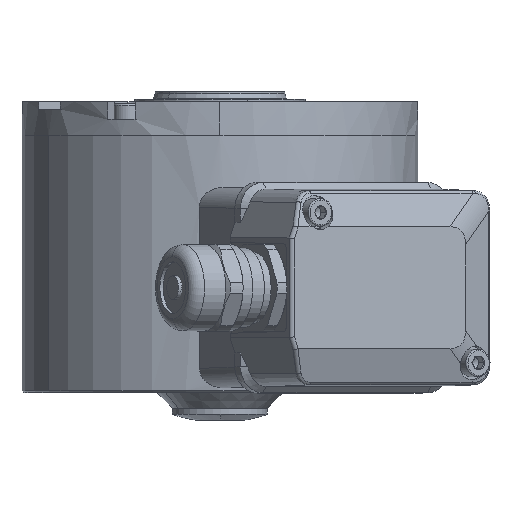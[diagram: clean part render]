
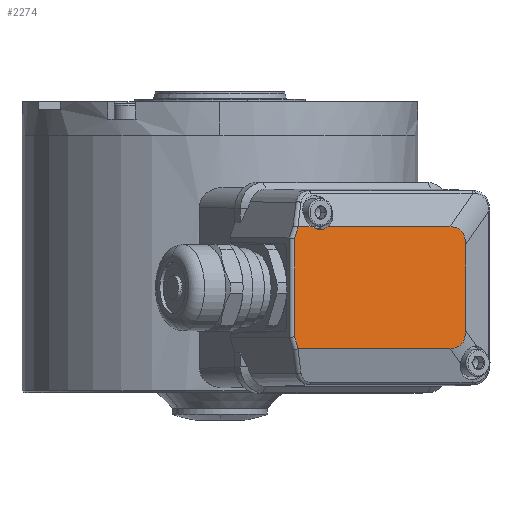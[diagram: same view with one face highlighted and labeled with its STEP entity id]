
A CAD part, front view. The second image highlights one B-rep face of the part: STEP entity #2274.
In plain terms, the highlighted planar face has unit normal (0.5, -0.866, 0).
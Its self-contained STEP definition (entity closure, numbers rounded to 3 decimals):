
#995 = VECTOR ( 'NONE', #12400, 1000. ) ;
#2274 = ADVANCED_FACE ( 'NONE', ( #6082 ), #23896, .F. ) ;
#2774 = VECTOR ( 'NONE', #15873, 1000. ) ;
#2823 = EDGE_CURVE ( 'NONE', #10047, #11277, #20193, .T. ) ;
#3047 = ORIENTED_EDGE ( 'NONE', *, *, #41007, .T. ) ;
#4107 = ORIENTED_EDGE ( 'NONE', *, *, #11134, .T. ) ;
#5210 = CARTESIAN_POINT ( 'NONE',  ( 62.037, -68.683, -36.173 ) ) ;
#5913 = CARTESIAN_POINT ( 'NONE',  ( 62.037, -68.683, -36.173 ) ) ;
#6082 = FACE_OUTER_BOUND ( 'NONE', #10678, .T. ) ;
#6263 = CARTESIAN_POINT ( 'NONE',  ( 58.097, -70.958, -31.624 ) ) ;
#6413 = CARTESIAN_POINT ( 'NONE',  ( 58.097, -70.958, -62.392 ) ) ;
#6820 = ORIENTED_EDGE ( 'NONE', *, *, #40400, .T. ) ;
#6952 = CARTESIAN_POINT ( 'NONE',  ( 25.331, -89.875, -28.008 ) ) ;
#7018 = AXIS2_PLACEMENT_3D ( 'NONE', #6952, #30552, #10380 ) ;
#8376 = CARTESIAN_POINT ( 'NONE',  ( 62.037, -68.683, -57.843 ) ) ;
#8405 = ORIENTED_EDGE ( 'NONE', *, *, #41038, .T. ) ;
#8861 = VERTEX_POINT ( 'NONE', #5210 ) ;
#10047 = VERTEX_POINT ( 'NONE', #17717 ) ;
#10092 = LINE ( 'NONE', #35962, #995 ) ;
#10380 = DIRECTION ( 'NONE',  ( 0., 0., 1. ) ) ;
#10524 = ORIENTED_EDGE ( 'NONE', *, *, #25307, .T. ) ;
#10678 = EDGE_LOOP ( 'NONE', ( #6820, #23698, #12632, #37329, #10524, #17335, #8405, #15254, #14183, #4107, #3047 ) ) ;
#10726 = CARTESIAN_POINT ( 'NONE',  ( 18.842, -93.622, -59.382 ) ) ;
#10843 = DIRECTION ( 'NONE',  ( 0., 0., -1. ) ) ;
#11134 = EDGE_CURVE ( 'NONE', #41875, #41244, #20716, .T. ) ;
#11277 = VERTEX_POINT ( 'NONE', #26790 ) ;
#11584 = CARTESIAN_POINT ( 'NONE',  ( 62.037, -68.683, -60.845 ) ) ;
#11628 = DIRECTION ( 'NONE',  ( -0.296, -0.171, -0.94 ) ) ;
#12400 = DIRECTION ( 'NONE',  ( 0., 0., 1. ) ) ;
#12632 = ORIENTED_EDGE ( 'NONE', *, *, #34830, .F. ) ;
#12733 = CARTESIAN_POINT ( 'NONE',  ( 58.097, -70.958, -31.624 ) ) ;
#13917 = VECTOR ( 'NONE', #35200, 1000. ) ;
#14183 = ORIENTED_EDGE ( 'NONE', *, *, #29610, .F. ) ;
#14300 = EDGE_CURVE ( 'NONE', #41625, #32691, #17169, .T. ) ;
#14691 = CARTESIAN_POINT ( 'NONE',  ( 19.791, -93.074, -62.392 ) ) ;
#14857 = EDGE_CURVE ( 'NONE', #31843, #15831, #22505, .T. ) ;
#15039 = CARTESIAN_POINT ( 'NONE',  ( 79.891, -58.375, -31.624 ) ) ;
#15052 = AXIS2_PLACEMENT_3D ( 'NONE', #20365, #15718, #30267 ) ;
#15254 = ORIENTED_EDGE ( 'NONE', *, *, #2823, .F. ) ;
#15718 = DIRECTION ( 'NONE',  ( -0.5, 0.866, 0. ) ) ;
#15831 = VERTEX_POINT ( 'NONE', #14691 ) ;
#15873 = DIRECTION ( 'NONE',  ( -0.866, -0.5, 0. ) ) ;
#16189 = LINE ( 'NONE', #34382, #33086 ) ;
#17169 =( BOUNDED_CURVE ( )  B_SPLINE_CURVE ( 3, ( #28553, #28413, #11584, #8376 ),
 .UNSPECIFIED., .F., .F. ) 
 B_SPLINE_CURVE_WITH_KNOTS ( ( 4, 4 ),
 ( 2.897, 3.386 ),
 .UNSPECIFIED. ) 
 CURVE ( )  GEOMETRIC_REPRESENTATION_ITEM ( )  RATIONAL_B_SPLINE_CURVE ( ( 1., 0.98, 0.98, 1. ) ) 
 REPRESENTATION_ITEM ( '' )  );
#17335 = ORIENTED_EDGE ( 'NONE', *, *, #38923, .T. ) ;
#17717 = CARTESIAN_POINT ( 'NONE',  ( 25.331, -89.875, -32.323 ) ) ;
#18268 = CARTESIAN_POINT ( 'NONE',  ( 18.79, -93.652, -34.797 ) ) ;
#19226 = DIRECTION ( 'NONE',  ( 0., 0., 1. ) ) ;
#19267 = DIRECTION ( 'NONE',  ( 0.5, -0.866, 0. ) ) ;
#19321 = CARTESIAN_POINT ( 'NONE',  ( 25.331, -89.875, -28.008 ) ) ;
#20174 = CARTESIAN_POINT ( 'NONE',  ( 18.842, -93.622, -34.634 ) ) ;
#20193 = CIRCLE ( 'NONE', #41738, 4.315 ) ;
#20365 = CARTESIAN_POINT ( 'NONE',  ( 70.365, -63.875, -72.008 ) ) ;
#20524 = VERTEX_POINT ( 'NONE', #20174 ) ;
#20716 = LINE ( 'NONE', #32549, #2774 ) ;
#22505 = LINE ( 'NONE', #39175, #39331 ) ;
#22868 = LINE ( 'NONE', #15039, #13917 ) ;
#23698 = ORIENTED_EDGE ( 'NONE', *, *, #14857, .T. ) ;
#23781 = LINE ( 'NONE', #34276, #41579 ) ;
#23896 = PLANE ( 'NONE',  #15052 ) ;
#24011 = CARTESIAN_POINT ( 'NONE',  ( 19.791, -93.074, -31.624 ) ) ;
#25307 = EDGE_CURVE ( 'NONE', #32691, #8861, #10092, .T. ) ;
#26790 = CARTESIAN_POINT ( 'NONE',  ( 27.37, -88.699, -31.624 ) ) ;
#28413 = CARTESIAN_POINT ( 'NONE',  ( 60.697, -69.457, -62.392 ) ) ;
#28421 = CIRCLE ( 'NONE', #7018, 4.315 ) ;
#28553 = CARTESIAN_POINT ( 'NONE',  ( 58.097, -70.958, -62.392 ) ) ;
#29544 = CARTESIAN_POINT ( 'NONE',  ( 62.037, -68.683, -33.171 ) ) ;
#29610 = EDGE_CURVE ( 'NONE', #41875, #10047, #28421, .T. ) ;
#30267 = DIRECTION ( 'NONE',  ( 0., 0., 1. ) ) ;
#30552 = DIRECTION ( 'NONE',  ( 0.5, -0.866, 0. ) ) ;
#30926 = DIRECTION ( 'NONE',  ( -0.866, -0.5, 0. ) ) ;
#31843 = VERTEX_POINT ( 'NONE', #10726 ) ;
#31856 = VECTOR ( 'NONE', #11628, 1000. ) ;
#31857 = CARTESIAN_POINT ( 'NONE',  ( 62.037, -68.683, -57.843 ) ) ;
#32549 = CARTESIAN_POINT ( 'NONE',  ( 79.891, -58.375, -31.624 ) ) ;
#32691 = VERTEX_POINT ( 'NONE', #31857 ) ;
#32914 = CARTESIAN_POINT ( 'NONE',  ( 60.697, -69.457, -31.624 ) ) ;
#33086 = VECTOR ( 'NONE', #10843, 1000. ) ;
#34276 = CARTESIAN_POINT ( 'NONE',  ( 79.891, -58.375, -62.392 ) ) ;
#34382 = CARTESIAN_POINT ( 'NONE',  ( 18.842, -93.622, -59.555 ) ) ;
#34816 = CARTESIAN_POINT ( 'NONE',  ( 23.293, -91.052, -31.624 ) ) ;
#34830 = EDGE_CURVE ( 'NONE', #41625, #15831, #23781, .T. ) ;
#35200 = DIRECTION ( 'NONE',  ( -0.866, -0.5, 0. ) ) ;
#35222 =( BOUNDED_CURVE ( )  B_SPLINE_CURVE ( 3, ( #5913, #29544, #32914, #12733 ),
 .UNSPECIFIED., .F., .F. ) 
 B_SPLINE_CURVE_WITH_KNOTS ( ( 4, 4 ),
 ( 6.039, 6.527 ),
 .UNSPECIFIED. ) 
 CURVE ( )  GEOMETRIC_REPRESENTATION_ITEM ( )  RATIONAL_B_SPLINE_CURVE ( ( 1., 0.98, 0.98, 1. ) ) 
 REPRESENTATION_ITEM ( '' )  );
#35962 = CARTESIAN_POINT ( 'NONE',  ( 62.037, -68.683, -87.008 ) ) ;
#37329 = ORIENTED_EDGE ( 'NONE', *, *, #14300, .T. ) ;
#38923 = EDGE_CURVE ( 'NONE', #8861, #41606, #35222, .T. ) ;
#39175 = CARTESIAN_POINT ( 'NONE',  ( 19.685, -93.135, -62.056 ) ) ;
#39331 = VECTOR ( 'NONE', #42495, 1000. ) ;
#40400 = EDGE_CURVE ( 'NONE', #20524, #31843, #16189, .T. ) ;
#40719 = LINE ( 'NONE', #18268, #31856 ) ;
#41007 = EDGE_CURVE ( 'NONE', #41244, #20524, #40719, .T. ) ;
#41038 = EDGE_CURVE ( 'NONE', #41606, #11277, #22868, .T. ) ;
#41244 = VERTEX_POINT ( 'NONE', #24011 ) ;
#41579 = VECTOR ( 'NONE', #30926, 1000. ) ;
#41606 = VERTEX_POINT ( 'NONE', #6263 ) ;
#41625 = VERTEX_POINT ( 'NONE', #6413 ) ;
#41738 = AXIS2_PLACEMENT_3D ( 'NONE', #19321, #19267, #19226 ) ;
#41875 = VERTEX_POINT ( 'NONE', #34816 ) ;
#42495 = DIRECTION ( 'NONE',  ( 0.296, 0.171, -0.94 ) ) ;
